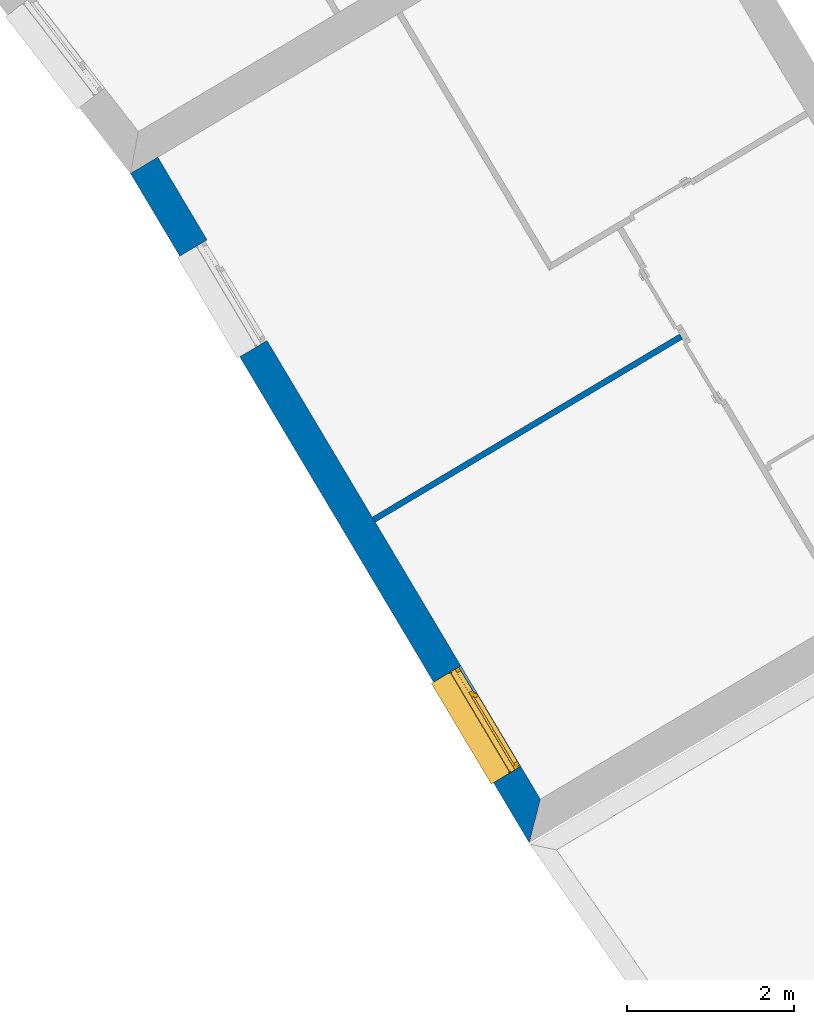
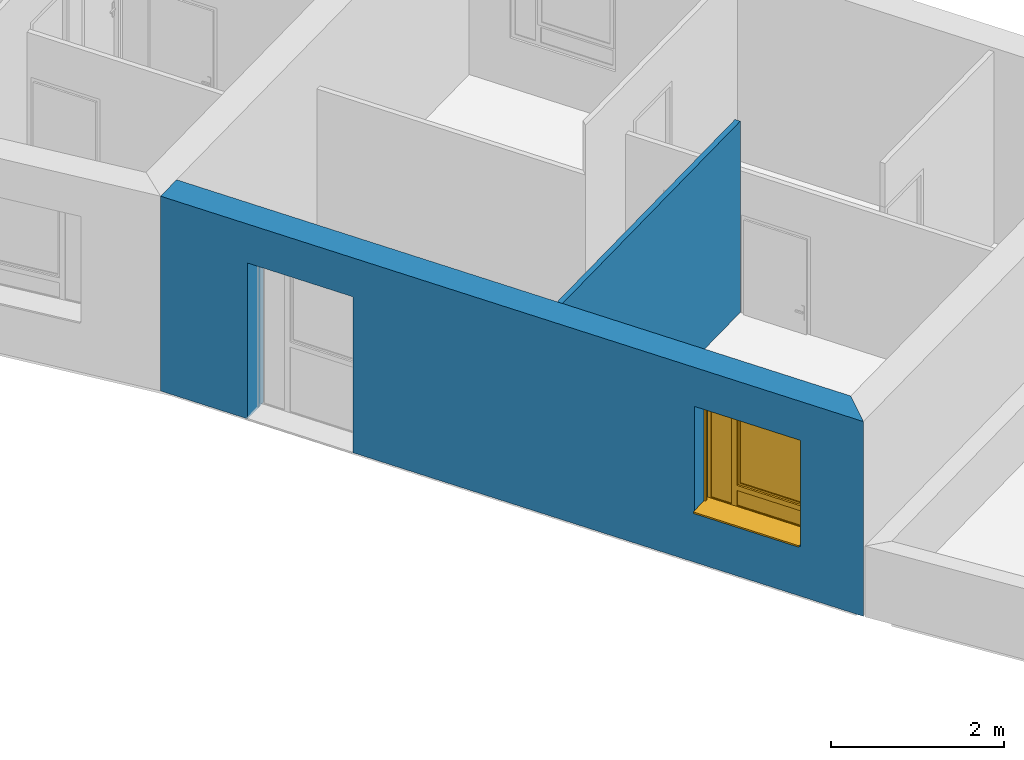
# One storey, part 39 of 121: 2 walls, 1 window, 2 openings.
"""IFC2X3 building model written with IfcOpenShell, lengths in metres."""

from ifc_helpers import new_model, entity, si_unit, converted_unit, derived_unit, money_unit, direction, frame, origin_with_axes, place, context, subcontext, project, spatial, polyline, outline, extrude, open_shell, faceted_brep, surface_model, source, transform, mapped, material, layer, layer_set, layer_usage, type_object, element, fill, save


model = new_model("IFC2X3")

# Units and contexts
model_context = context("Model", 3, precision=1e-05, world=origin_with_axes(), true_north=direction((0.0, 1.0)))
body_context = subcontext(model_context, "Body", "Model", "MODEL_VIEW")
ifc_project = project(units=[si_unit("LENGTHUNIT", "METRE"), si_unit("AREAUNIT", "SQUARE_METRE"), si_unit("VOLUMEUNIT", "CUBIC_METRE"), converted_unit("PLANEANGLEUNIT", "DEGREE", entity("IfcPlaneAngleMeasure", 0.0174532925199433), si_unit("PLANEANGLEUNIT", "RADIAN"), dimensions=[0, 0, 0, 0, 0, 0, 0]), money_unit("CHF"), converted_unit("TIMEUNIT", "Year", entity("IfcTimeMeasure", 31557600.0), si_unit("TIMEUNIT", "SECOND"), dimensions=[0, 0, 1, 0, 0, 0, 0]), si_unit("MASSUNIT", "GRAM", prefix="KILO"), si_unit("THERMODYNAMICTEMPERATUREUNIT", "DEGREE_CELSIUS"), si_unit("LUMINOUSINTENSITYUNIT", "LUMEN"), si_unit("ENERGYUNIT", "JOULE", prefix="MEGA"), derived_unit("THERMALCONDUCTANCEUNIT", [(si_unit("POWERUNIT", "WATT"), 1), (si_unit("LENGTHUNIT", "METRE"), -1), (si_unit("THERMODYNAMICTEMPERATUREUNIT", "KELVIN"), -1)]), derived_unit("SPECIFICHEATCAPACITYUNIT", [(si_unit("ENERGYUNIT", "JOULE"), 1), (si_unit("MASSUNIT", "GRAM", prefix="KILO"), -1), (si_unit("THERMODYNAMICTEMPERATUREUNIT", "KELVIN"), -1)]), derived_unit("MASSDENSITYUNIT", [(si_unit("MASSUNIT", "GRAM", prefix="KILO"), 1), (si_unit("VOLUMEUNIT", "CUBIC_METRE"), -1)])], contexts=[model_context])

# Site, building, storey
site_placement = place(None, origin_with_axes())
site = spatial("IfcSite", under=ifc_project, at=site_placement, Name="Site", CompositionType="ELEMENT")
building_placement = place(site_placement, origin_with_axes())
building = spatial("IfcBuilding", under=site, at=building_placement, Name="Bâtiment", CompositionType="ELEMENT")
storey_placement = place(building_placement, frame((0.0, 0.0, 2.75), z_axis=(0.0, 0.0, 1.0), x_axis=(1.0, 0.0, 0.0)))
storey = spatial("IfcBuildingStorey", under=building, at=storey_placement, Name="Etage 1", CompositionType="ELEMENT", Elevation=2.75)

# Wall
ifc_material_1 = material(Name="Hachure solide 268963992")
ifc_layer_1 = layer(ifc_material_1, 0.07, ventilated="UNKNOWN")
ifc_layer_set_1 = layer_set([ifc_layer_1], Name="Cloison 70 0826278243")
ifc_layer_usage_1 = layer_usage(ifc_layer_set_1, "AXIS2", "POSITIVE", 0.0)
wall_type_1 = type_object("IfcWallType", Name="Cloison 70 0826278243 70", PredefinedType="NOTDEFINED")
wall_1_placement = place(storey_placement, frame((9541.045626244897, -1051.56847190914, 57.7), z_axis=(0.0, 0.0, 1.0), x_axis=(0.8590867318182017, 0.5118300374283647, 0.0)))
element("IfcWallStandardCase", 1, at=wall_1_placement, inside=storey, type_object=wall_type_1, material=ifc_layer_usage_1, Name="Mur-150", context=body_context, shape_type="SweptSolid", body=[
    extrude(outline(polyline([(0.3799999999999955, 0.0), (4.655501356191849, 0.0), (4.655501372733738, 0.07000000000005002), (0.3800000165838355, 0.07000000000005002), (0.3799999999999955, 0.0)])), origin_with_axes(), (0.0, 0.0, 1.0), 2.7),
])

# Wall, openings, window
ifc_material_2 = material(Name="Parpaing 312445824")
ifc_layer_2 = layer(ifc_material_2, 0.22, ventilated="UNKNOWN")
ifc_material_3 = material(Name="Isolant styromousse 301821074")
ifc_layer_3 = layer(ifc_material_3, 0.16, ventilated="UNKNOWN")
ifc_layer_set_2 = layer_set([ifc_layer_2, ifc_layer_3], Name="isol int 22+16 0836643197")
ifc_layer_usage_2 = layer_usage(ifc_layer_set_2, "AXIS2", "POSITIVE", 0.0)
wall_type_2 = type_object("IfcWallType", Name="isol int 22+16 0836643197 380", PredefinedType="NOTDEFINED")
wall_2_placement = place(storey_placement, frame((9538.446702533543, -1047.206277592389, 57.7), z_axis=(0.0, 0.0, 1.0), x_axis=(0.511829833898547, -0.8590868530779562, 0.0)))
wall_2 = element("IfcWallStandardCase", 2, at=wall_2_placement, inside=storey, type_object=wall_type_2, material=ifc_layer_usage_2, Name="Mur-113", context=body_context, shape_type="SweptSolid", body=[
    extrude(outline(polyline([(0.0, 0.0), (9.311906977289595, 0.0), (8.931906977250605, 0.3799999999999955), (0.0, 0.3799999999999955), (0.0, 0.0)])), origin_with_axes(), (0.0, 0.0, 1.0), 2.75),
])
opening_1_placement = place(wall_2_placement, frame((1.851368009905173, 0.0, 0.0), z_axis=(0.0, 0.0, 1.0), x_axis=(1.0, 0.0, 0.0)))
element("IfcOpeningElement", 3, at=opening_1_placement, cuts=wall_2, Name="Fen-045", context=body_context, shape_type="Brep", body=[
    faceted_brep([(-0.6999999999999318, 0.4800000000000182, 2.200000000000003), (0.6999999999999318, 0.4800000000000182, 2.200000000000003), (0.7000000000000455, 4.475503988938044, 2.200000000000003), (-0.7000000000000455, 4.475503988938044, 2.200000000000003), (-0.6999999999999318, 0.4800000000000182, 2.399999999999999), (0.6999999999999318, 0.4800000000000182, 2.399999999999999), (0.6999999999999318, 0.3000000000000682, 2.200000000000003), (0.7000000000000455, 0.3000000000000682, 0.0), (0.7000000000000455, 4.475503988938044, 0.0), (-0.7000000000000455, 4.475503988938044, 0.0), (-0.6999999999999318, 0.3000000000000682, 2.200000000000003), (-0.6999999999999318, 0.3000000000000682, 0.0), (-0.7000000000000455, 0.2199999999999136, 2.200000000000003), (-0.7000000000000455, 0.2199999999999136, 2.399999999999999), (0.7000000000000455, 0.2199999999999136, 2.399999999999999), (0.7000000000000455, 0.2199999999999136, 2.200000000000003), (0.6999999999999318, -4.095503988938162, 2.200000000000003), (0.6999999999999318, -4.095503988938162, 0.0), (-0.6999999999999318, -4.095503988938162, 0.0), (-0.6999999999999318, -4.095503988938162, 2.200000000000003)], [[[0, 1, 2, 3]], [[1, 0, 4, 5]], [[1, 6, 7, 8, 2]], [[2, 8, 9, 3]], [[10, 0, 3, 9, 11]], [[0, 10, 12, 13, 4]], [[4, 13, 14, 5]], [[6, 1, 5, 14, 15]], [[6, 15, 16, 17, 7]], [[7, 11, 9, 8]], [[12, 10, 11, 18, 19]], [[12, 15, 14, 13]], [[15, 12, 19, 16]], [[19, 18, 17, 16]], [[11, 7, 17, 18]]]),
])
opening_2_placement = place(wall_2_placement, frame((7.775827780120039, 0.0, 0.7000000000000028), z_axis=(0.0, 0.0, 1.0), x_axis=(1.0, 0.0, 0.0)))
opening_2 = element("IfcOpeningElement", 4, at=opening_2_placement, cuts=wall_2, Name="Fen-045", context=body_context, shape_type="Brep", body=[
    faceted_brep([(-0.7000000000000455, 0.4799999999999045, 1.5), (0.7000000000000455, 0.4799999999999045, 1.5), (0.7000000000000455, 4.475503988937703, 1.5), (-0.7000000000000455, 4.475503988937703, 1.5), (-0.7000000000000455, 0.4799999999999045, 1.700000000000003), (0.7000000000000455, 0.4799999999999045, 1.700000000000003), (0.7000000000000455, 0.2999999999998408, 1.5), (0.7000000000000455, 0.2999999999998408, 0.0), (0.7000000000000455, 4.475503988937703, 0.0), (-0.7000000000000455, 4.475503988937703, 0.0), (-0.7000000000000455, 0.2999999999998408, 1.5), (-0.6999999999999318, 0.2999999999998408, 0.0), (-0.6999999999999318, 0.2199999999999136, 1.5), (-0.6999999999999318, 0.2199999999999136, 1.700000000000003), (0.7000000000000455, 0.2199999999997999, 1.700000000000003), (0.7000000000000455, 0.2199999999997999, 1.5), (0.7000000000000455, -4.095503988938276, 1.5), (0.7000000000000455, -4.095503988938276, 0.0), (-0.7000000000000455, -4.095503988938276, 0.0), (-0.7000000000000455, -4.095503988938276, 1.5)], [[[0, 1, 2, 3]], [[1, 0, 4, 5]], [[1, 6, 7, 8, 2]], [[2, 8, 9, 3]], [[10, 0, 3, 9, 11]], [[0, 10, 12, 13, 4]], [[4, 13, 14, 5]], [[6, 1, 5, 14, 15]], [[6, 15, 16, 17, 7]], [[7, 11, 9, 8]], [[12, 10, 11, 18, 19]], [[12, 15, 14, 13]], [[15, 12, 19, 16]], [[19, 18, 17, 16]], [[11, 7, 17, 18]]]),
])
window_style = type_object("IfcWindowStyle", Name="Fenêtre variable 27", ConstructionType="NOTDEFINED", OperationType="TRIPLE_PANEL_LEFT", ParameterTakesPrecedence=False, Sizeable=False)
shared_shape = source(origin_with_axes(), body_context, "Body", "SurfaceModel", [
    surface_model("IfcShellBasedSurfaceModel", [(0.7, -0.05100000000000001, 0.05), (-0.7, -0.05100000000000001, 0.05000000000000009), (-0.7, -0.05100000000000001, 0.04000000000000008), (0.7, -0.05100000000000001, 0.04), (-0.7, -0.3799999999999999, 0.02900000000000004), (0.7, -0.3799999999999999, 0.02899999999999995), (-0.7, -0.3799999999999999, 0.00900000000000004), (0.7, -0.3799999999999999, 0.008999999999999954), (-0.7, -0.3699999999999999, 0.01900000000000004), (0.7, -0.3699999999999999, 0.01899999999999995)], [open_shell([[[0, 1, 2, 3]], [[3, 2, 4, 5]], [[5, 4, 6, 7]], [[7, 6, 8, 9]]])]),
    faceted_brep([(0.7, -0.13, 1.7), (0.7, 0.13, 1.7), (0.697, 0.13, 1.7), (0.697, -0.13, 1.7), (0.7, -0.13, 1.5), (0.7, 0.13, 1.5), (0.697, 0.13, 1.5), (0.697, -0.13, 1.5)], [[[0, 1, 2, 3]], [[0, 4, 5, 1]], [[1, 5, 6, 2]], [[3, 2, 6, 7]], [[4, 0, 3, 7]], [[5, 4, 7, 6]]]),
    faceted_brep([(-0.6970000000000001, -0.1299999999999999, 1.7), (-0.6970000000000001, 0.1300000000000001, 1.7), (-0.7000000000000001, 0.1300000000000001, 1.7), (-0.7000000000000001, -0.1299999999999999, 1.7), (-0.6970000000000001, -0.1299999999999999, 1.5), (-0.6970000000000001, 0.1300000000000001, 1.5), (-0.7000000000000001, 0.1300000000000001, 1.5), (-0.7000000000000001, -0.1299999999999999, 1.5)], [[[0, 1, 2, 3]], [[0, 4, 5, 1]], [[1, 5, 6, 2]], [[3, 2, 6, 7]], [[4, 0, 3, 7]], [[5, 4, 7, 6]]]),
    faceted_brep([(0.697, -0.13, 1.5), (0.697, -0.13, 1.7), (-0.697, -0.1299999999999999, 1.7), (-0.697, -0.1299999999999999, 1.5), (0.697, -0.127, 1.5), (0.697, -0.127, 1.697), (0.697, 0.127, 1.697), (0.697, 0.127, 1.503), (0.697, -0.108, 1.503), (0.697, -0.108, 1.5), (0.697, 0.13, 1.5), (0.697, 0.13, 1.7), (-0.697, 0.1300000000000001, 1.7), (-0.697, 0.1300000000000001, 1.5), (-0.697, -0.1079999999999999, 1.5), (-0.697, -0.1079999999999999, 1.503), (-0.697, 0.1270000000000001, 1.503), (-0.697, 0.1270000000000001, 1.697), (-0.697, -0.1269999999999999, 1.697), (-0.697, -0.1269999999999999, 1.5)], [[[0, 1, 2, 3]], [[0, 4, 5, 6, 7, 8, 9, 10, 11, 1]], [[1, 11, 12, 2]], [[3, 2, 12, 13, 14, 15, 16, 17, 18, 19]], [[4, 0, 3, 19]], [[5, 4, 19, 18]], [[6, 5, 18, 17]], [[7, 6, 17, 16]], [[8, 7, 16, 15]], [[9, 8, 15, 14]], [[10, 9, 14, 13]], [[11, 10, 13, 12]]]),
    faceted_brep([(0.694, -0.08075423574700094, 1.585760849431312), (0.694, -0.07705479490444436, 1.571954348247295), (0.694, -0.07101408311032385, 1.559), (0.694, -0.06281564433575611, 1.547291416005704), (0.694, -0.05270858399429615, 1.537184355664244), (0.694, -0.04099999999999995, 1.528985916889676), (0.694, -0.02804565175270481, 1.522945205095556), (0.694, -0.01423915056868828, 1.519245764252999), (0.694, 0.0, 1.518), (0.694, 0.01423915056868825, 1.519245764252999), (0.694, 0.02804565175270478, 1.522945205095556), (0.694, 0.04099999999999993, 1.528985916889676), (0.694, 0.05270858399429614, 1.537184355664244), (0.694, 0.06281564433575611, 1.547291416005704), (0.694, 0.07101408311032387, 1.559), (0.694, 0.07705479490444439, 1.571954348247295), (0.694, 0.08075423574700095, 1.585760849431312), (0.694, 0.0819999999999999, 1.6), (0.694, 0.08075423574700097, 1.614239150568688), (0.694, 0.0770547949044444, 1.628045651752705), (0.694, 0.07101408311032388, 1.641), (0.694, 0.06281564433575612, 1.652708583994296), (0.694, 0.05270858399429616, 1.662815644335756), (0.694, 0.04099999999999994, 1.671014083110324), (0.694, 0.02804565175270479, 1.677054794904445), (0.694, 0.01423915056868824, 1.680754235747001), (0.694, 0.0, 1.682), (0.694, -0.01423915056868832, 1.680754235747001), (0.694, -0.02804565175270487, 1.677054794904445), (0.694, -0.04100000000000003, 1.671014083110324), (0.694, -0.05270858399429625, 1.662815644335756), (0.694, -0.06281564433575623, 1.652708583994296), (0.694, -0.07101408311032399, 1.641), (0.694, -0.07705479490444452, 1.628045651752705), (0.694, -0.0807542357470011, 1.614239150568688), (0.694, -0.08200000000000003, 1.6), (-0.694, -0.08075423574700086, 1.585760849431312), (-0.694, -0.07705479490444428, 1.571954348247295), (-0.694, -0.07101408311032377, 1.559), (-0.694, -0.06281564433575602, 1.547291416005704), (-0.694, -0.05270858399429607, 1.537184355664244), (-0.694, -0.04099999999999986, 1.528985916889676), (-0.694, -0.02804565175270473, 1.522945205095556), (-0.694, -0.0142391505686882, 1.519245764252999), (-0.694, 0.0, 1.518), (-0.694, 0.01423915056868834, 1.519245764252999), (-0.694, 0.02804565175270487, 1.522945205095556), (-0.694, 0.04100000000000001, 1.528985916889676), (-0.694, 0.05270858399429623, 1.537184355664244), (-0.694, 0.06281564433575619, 1.547291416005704), (-0.694, 0.07101408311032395, 1.559), (-0.694, 0.07705479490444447, 1.571954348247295), (-0.694, 0.08075423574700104, 1.585760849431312), (-0.694, 0.08199999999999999, 1.6), (-0.694, 0.08075423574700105, 1.614239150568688), (-0.694, 0.07705479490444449, 1.628045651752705), (-0.694, 0.07101408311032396, 1.641), (-0.694, 0.0628156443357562, 1.652708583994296), (-0.694, 0.05270858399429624, 1.662815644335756), (-0.694, 0.04100000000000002, 1.671014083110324), (-0.694, 0.02804565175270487, 1.677054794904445), (-0.694, 0.01423915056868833, 1.680754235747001), (-0.694, 0.0, 1.682), (-0.694, -0.01423915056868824, 1.680754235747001), (-0.694, -0.02804565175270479, 1.677054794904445), (-0.694, -0.04099999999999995, 1.671014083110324), (-0.694, -0.05270858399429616, 1.662815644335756), (-0.694, -0.06281564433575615, 1.652708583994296), (-0.694, -0.07101408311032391, 1.641), (-0.694, -0.07705479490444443, 1.628045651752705), (-0.694, -0.08075423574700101, 1.614239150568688), (-0.694, -0.08199999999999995, 1.6)], [[[0, 1, 2, 3, 4, 5, 6, 7, 8, 9, 10, 11, 12, 13, 14, 15, 16, 17, 18, 19, 20, 21, 22, 23, 24, 25, 26, 27, 28, 29, 30, 31, 32, 33, 34, 35]], [[1, 0, 36, 37]], [[2, 1, 37, 38]], [[3, 2, 38, 39]], [[4, 3, 39, 40]], [[5, 4, 40, 41]], [[6, 5, 41, 42]], [[7, 6, 42, 43]], [[8, 7, 43, 44]], [[9, 8, 44, 45]], [[10, 9, 45, 46]], [[11, 10, 46, 47]], [[12, 11, 47, 48]], [[13, 12, 48, 49]], [[14, 13, 49, 50]], [[15, 14, 50, 51]], [[16, 15, 51, 52]], [[17, 16, 52, 53]], [[18, 17, 53, 54]], [[19, 18, 54, 55]], [[20, 19, 55, 56]], [[21, 20, 56, 57]], [[22, 21, 57, 58]], [[23, 22, 58, 59]], [[24, 23, 59, 60]], [[25, 24, 60, 61]], [[26, 25, 61, 62]], [[27, 26, 62, 63]], [[28, 27, 63, 64]], [[29, 28, 64, 65]], [[30, 29, 65, 66]], [[31, 30, 66, 67]], [[32, 31, 67, 68]], [[33, 32, 68, 69]], [[34, 33, 69, 70]], [[35, 34, 70, 71]], [[0, 35, 71, 36]], [[36, 71, 70, 69, 68, 67, 66, 65, 64, 63, 62, 61, 60, 59, 58, 57, 56, 55, 54, 53, 52, 51, 50, 49, 48, 47, 46, 45, 44, 43, 42, 41, 40, 39, 38, 37]]]),
    faceted_brep([(-0.7, -0.105, 0.03), (-0.7, -0.13, 0.03), (-0.7, -0.1299999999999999, 1.5), (-0.7, -0.1049999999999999, 1.5), (-0.6749999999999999, -0.105, 0.03), (-0.6749999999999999, -0.108, 0.03), (-0.697, -0.108, 0.03), (-0.697, -0.127, 0.03), (-0.6749999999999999, -0.127, 0.03), (-0.6749999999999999, -0.13, 0.03), (-0.6749999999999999, -0.1299999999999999, 1.5), (-0.6749999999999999, -0.1269999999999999, 1.5), (-0.697, -0.1269999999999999, 1.5), (-0.697, -0.1079999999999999, 1.5), (-0.6749999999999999, -0.1079999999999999, 1.5), (-0.6749999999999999, -0.1049999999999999, 1.5)], [[[0, 1, 2, 3]], [[0, 4, 5, 6, 7, 8, 9, 1]], [[1, 9, 10, 2]], [[3, 2, 10, 11, 12, 13, 14, 15]], [[4, 0, 3, 15]], [[5, 4, 15, 14]], [[6, 5, 14, 13]], [[7, 6, 13, 12]], [[8, 7, 12, 11]], [[9, 8, 11, 10]]]),
    faceted_brep([(0.7, -0.105, 0.03), (0.7, -0.1049999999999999, 1.5), (0.7, -0.1299999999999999, 1.5), (0.7, -0.13, 0.03), (0.6749999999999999, -0.105, 0.03), (0.6749999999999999, -0.1049999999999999, 1.5), (0.6749999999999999, -0.1079999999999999, 1.5), (0.697, -0.1079999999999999, 1.5), (0.697, -0.1269999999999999, 1.5), (0.6749999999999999, -0.1269999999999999, 1.5), (0.6749999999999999, -0.1299999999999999, 1.5), (0.6749999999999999, -0.13, 0.03), (0.6749999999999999, -0.127, 0.03), (0.697, -0.127, 0.03), (0.697, -0.108, 0.03), (0.6749999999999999, -0.108, 0.03)], [[[0, 1, 2, 3]], [[4, 5, 1, 0]], [[1, 5, 6, 7, 8, 9, 10, 2]], [[3, 2, 10, 11]], [[0, 3, 11, 12, 13, 14, 15, 4]], [[15, 6, 5, 4]], [[14, 7, 6, 15]], [[13, 8, 7, 14]], [[12, 9, 8, 13]], [[11, 10, 9, 12]]]),
    surface_model("IfcShellBasedSurfaceModel", [(0.697, -0.115, 1.6), (-0.697, -0.1149999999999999, 1.6), (-0.697, -0.12, 1.6), (0.697, -0.12, 1.6), (0.697, -0.115, 1.6), (0.697, -0.12, 1.6), (-0.697, -0.1199999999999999, 1.6), (-0.697, -0.1149999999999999, 1.6)], [open_shell([[[0, 1, 2, 3]], [[4, 5, 6, 7]]])]),
    faceted_brep([(0.697, -0.115, 1.6), (0.697, -0.1166666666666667, 1.583333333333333), (-0.697, -0.1166666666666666, 1.583333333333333), (-0.697, -0.1149999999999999, 1.6), (0.697, -0.12, 1.6), (0.697, -0.1216666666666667, 1.583333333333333), (0.697, -0.1216666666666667, 1.566666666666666), (0.697, -0.12, 1.55), (0.697, -0.115, 1.55), (0.697, -0.1166666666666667, 1.566666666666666), (-0.697, -0.1166666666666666, 1.566666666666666), (-0.697, -0.1149999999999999, 1.55), (-0.697, -0.1199999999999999, 1.55), (-0.697, -0.1216666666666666, 1.566666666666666), (-0.697, -0.1216666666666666, 1.583333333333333), (-0.697, -0.1199999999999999, 1.6)], [[[0, 1, 2, 3]], [[0, 4, 5, 6, 7, 8, 9, 1]], [[1, 9, 10, 2]], [[3, 2, 10, 11, 12, 13, 14, 15]], [[4, 0, 3, 15]], [[5, 4, 15, 14]], [[6, 5, 14, 13]], [[7, 6, 13, 12]], [[8, 7, 12, 11]], [[9, 8, 11, 10]]]),
    faceted_brep([(0.697, -0.115, 1.55), (0.697, -0.1166666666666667, 1.533333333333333), (-0.697, -0.1166666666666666, 1.533333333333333), (-0.697, -0.1149999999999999, 1.55), (0.697, -0.12, 1.55), (0.697, -0.1216666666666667, 1.533333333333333), (0.697, -0.1216666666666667, 1.516666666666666), (0.697, -0.12, 1.5), (0.697, -0.115, 1.5), (0.697, -0.1166666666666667, 1.516666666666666), (-0.697, -0.1166666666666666, 1.516666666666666), (-0.697, -0.1149999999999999, 1.5), (-0.697, -0.1199999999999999, 1.5), (-0.697, -0.1216666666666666, 1.516666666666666), (-0.697, -0.1216666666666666, 1.533333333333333), (-0.697, -0.1199999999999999, 1.55)], [[[0, 1, 2, 3]], [[0, 4, 5, 6, 7, 8, 9, 1]], [[1, 9, 10, 2]], [[3, 2, 10, 11, 12, 13, 14, 15]], [[4, 0, 3, 15]], [[5, 4, 15, 14]], [[6, 5, 14, 13]], [[7, 6, 13, 12]], [[8, 7, 12, 11]], [[9, 8, 11, 10]]]),
    faceted_brep([(0.6749999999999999, 0.0, 1.45), (0.6749999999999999, -0.02500000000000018, 1.45), (0.6499999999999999, -0.02500000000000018, 1.45), (0.6499999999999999, -0.05000000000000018, 1.45), (0.7, -0.05000000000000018, 1.45), (0.7, 0.0, 1.45), (0.6749999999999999, 0.0, 0.3099999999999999), (0.6749999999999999, -0.02500000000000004, 0.3099999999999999), (0.6499999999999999, -0.02500000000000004, 0.335), (0.6499999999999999, -0.02500000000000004, 0.3099999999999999), (0.6499999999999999, -0.05000000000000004, 0.335), (0.6499999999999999, -0.05000000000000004, 0.265), (0.6499999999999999, -0.05000000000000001, 0.05000000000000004), (0.7, -0.05000000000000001, 0.05000000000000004), (0.7, 0.0, 0.05000000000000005), (0.6499999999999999, 0.0, 0.05000000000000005), (0.6499999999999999, 0.0, 0.265), (0.6499999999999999, 0.0, 0.3099999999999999)], [[[0, 1, 2, 3, 4, 5]], [[1, 0, 6, 7]], [[8, 2, 1, 7, 9]], [[2, 8, 10, 3]], [[10, 11, 12, 13, 4, 3]], [[5, 4, 13, 14]], [[6, 0, 5, 14, 15, 16, 17]], [[6, 17, 9, 7]], [[9, 17, 16, 11, 10, 8]], [[15, 12, 11, 16]], [[14, 13, 12, 15]]]),
    faceted_brep([(-0.3068894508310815, -0.02500000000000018, 1.45), (-0.3318894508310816, -0.02500000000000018, 1.45), (-0.3318894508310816, 0.0, 1.45), (-0.3768894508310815, 0.0, 1.45), (-0.3768894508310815, -0.05000000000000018, 1.45), (-0.3068894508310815, -0.05000000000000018, 1.45), (-0.3068894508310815, -0.02500000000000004, 0.335), (-0.3068894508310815, -0.02500000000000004, 0.3099999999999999), (-0.3318894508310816, -0.02500000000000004, 0.3099999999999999), (-0.3318894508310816, 0.0, 0.3099999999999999), (-0.3068894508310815, 0.0, 0.3099999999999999), (-0.3068894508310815, 0.0, 0.265), (-0.3068894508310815, 0.0, 0.05000000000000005), (-0.3768894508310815, 0.0, 0.05000000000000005), (-0.3768894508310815, -0.05000000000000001, 0.05000000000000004), (-0.3068894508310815, -0.05000000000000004, 0.265), (-0.3068894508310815, -0.05000000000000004, 0.335), (-0.3068894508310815, -0.05000000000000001, 0.05000000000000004)], [[[0, 1, 2, 3, 4, 5]], [[1, 0, 6, 7, 8]], [[9, 2, 1, 8]], [[9, 10, 11, 12, 13, 3, 2]], [[13, 14, 4, 3]], [[15, 16, 5, 4, 14, 17]], [[6, 0, 5, 16]], [[7, 6, 16, 15, 11, 10]], [[10, 9, 8, 7]], [[11, 15, 17, 12]], [[12, 17, 14, 13]]]),
    faceted_brep([(0.6499999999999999, -0.02500000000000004, 0.335), (-0.3068894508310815, -0.02500000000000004, 0.335), (-0.3068894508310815, -0.05000000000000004, 0.335), (0.6499999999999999, -0.05000000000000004, 0.335), (-0.3068894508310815, -0.02500000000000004, 0.3099999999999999), (0.6499999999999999, -0.02500000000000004, 0.3099999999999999), (-0.3068894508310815, 0.0, 0.3099999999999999), (-0.3068894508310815, 0.0, 0.265), (-0.3068894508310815, -0.05000000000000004, 0.265), (0.6499999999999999, -0.05000000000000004, 0.265), (0.6499999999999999, 0.0, 0.265), (0.6499999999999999, 0.0, 0.3099999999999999)], [[[0, 1, 2, 3]], [[4, 1, 0, 5]], [[4, 6, 7, 8, 2, 1]], [[2, 8, 9, 3]], [[5, 0, 3, 9, 10, 11]], [[11, 6, 4, 5]], [[6, 11, 10, 7]], [[10, 9, 8, 7]]]),
    faceted_brep([(0.6749999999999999, 0.0, 1.45), (0.6749999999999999, 0.0, 1.475), (-0.3318894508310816, 0.0, 1.475), (-0.3318894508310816, 0.0, 1.45), (-0.3768894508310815, 0.0, 1.45), (-0.6499999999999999, 0.0, 1.45), (-0.7, 0.0, 1.45), (-0.7, 0.0, 1.5), (0.7, 0.0, 1.5), (0.7, 0.0, 1.45), (0.6749999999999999, -0.02500000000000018, 1.45), (0.6749999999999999, -0.02500000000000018, 1.475), (-0.3318894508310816, -0.02500000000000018, 1.475), (-0.3318894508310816, -0.02500000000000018, 1.45), (-0.3068894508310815, -0.02500000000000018, 1.45), (-0.3068894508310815, -0.05000000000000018, 1.45), (-0.3768894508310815, -0.05000000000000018, 1.45), (-0.6499999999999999, -0.05000000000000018, 1.45), (-0.7, -0.05000000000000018, 1.45), (-0.7, -0.05000000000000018, 1.5), (0.7, -0.05000000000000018, 1.5), (0.7, -0.05000000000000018, 1.45), (0.6499999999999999, -0.05000000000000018, 1.45), (0.6499999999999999, -0.02500000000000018, 1.45)], [[[0, 1, 2, 3, 4, 5, 6, 7, 8, 9]], [[1, 0, 10, 11]], [[2, 1, 11, 12]], [[3, 2, 12, 13]], [[13, 14, 15, 16, 4, 3]], [[4, 16, 17, 5]], [[5, 17, 18, 6]], [[6, 18, 19, 7]], [[7, 19, 20, 8]], [[8, 20, 21, 9]], [[10, 0, 9, 21, 22, 23]], [[14, 13, 12, 11, 10, 23]], [[14, 23, 22, 15]], [[16, 15, 22, 21, 20, 19, 18, 17]]]),
    faceted_brep([(-0.6499999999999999, -0.05000000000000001, 0.05), (-0.7, -0.05000000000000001, 0.05), (-0.7, 0.0, 0.05000000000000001), (-0.6499999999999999, 0.0, 0.05000000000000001), (-0.6499999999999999, -0.05000000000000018, 1.45), (-0.7, -0.05000000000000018, 1.45), (-0.7, 0.0, 1.45), (-0.6499999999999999, 0.0, 1.45)], [[[0, 1, 2, 3]], [[0, 4, 5, 1]], [[1, 5, 6, 2]], [[3, 2, 6, 7]], [[4, 0, 3, 7]], [[5, 4, 7, 6]]]),
    faceted_brep([(0.6499999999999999, -0.05000000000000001, 0.05), (0.7, -0.05000000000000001, 0.05), (0.7, 0.0, 0.05000000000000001), (0.6499999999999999, 0.0, 0.05000000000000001), (-0.3068894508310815, -0.05000000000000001, 0.05), (-0.3768894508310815, -0.05000000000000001, 0.05), (-0.6499999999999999, -0.05000000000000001, 0.05), (-0.7, -0.05000000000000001, 0.05), (-0.7, -0.05, 0.0), (0.7, -0.05, 0.0), (0.7, 0.0, 0.0), (-0.7, 0.0, 0.0), (-0.7, 0.0, 0.05000000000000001), (-0.6499999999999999, 0.0, 0.05000000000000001), (-0.3768894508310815, 0.0, 0.05000000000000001), (-0.3068894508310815, 0.0, 0.05000000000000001)], [[[0, 1, 2, 3]], [[0, 4, 5, 6, 7, 8, 9, 1]], [[1, 9, 10, 2]], [[3, 2, 10, 11, 12, 13, 14, 15]], [[4, 0, 3, 15]], [[5, 4, 15, 14]], [[6, 5, 14, 13]], [[7, 6, 13, 12]], [[8, 7, 12, 11]], [[9, 8, 11, 10]]]),
    faceted_brep([(0.625, -0.02500000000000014, 1.425), (0.6749999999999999, -0.02500000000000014, 1.425), (0.6749999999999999, 0.02499999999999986, 1.425), (0.625, 0.02499999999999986, 1.425), (0.625, -0.02500000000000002, 0.3599999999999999), (0.6749999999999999, -0.02500000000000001, 0.3599999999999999), (0.6749999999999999, 0.02499999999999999, 0.3599999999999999), (0.625, 0.02499999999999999, 0.3599999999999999)], [[[0, 1, 2, 3]], [[0, 4, 5, 1]], [[1, 5, 6, 2]], [[3, 2, 6, 7]], [[4, 0, 3, 7]], [[5, 4, 7, 6]]]),
    faceted_brep([(-0.2818894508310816, -0.02500000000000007, 0.3599999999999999), (-0.3318894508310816, -0.02500000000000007, 0.3599999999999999), (-0.3318894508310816, 0.02499999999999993, 0.3599999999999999), (-0.2818894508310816, 0.02499999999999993, 0.3599999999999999), (-0.2818894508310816, -0.0250000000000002, 1.425), (-0.3318894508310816, -0.0250000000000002, 1.425), (-0.3318894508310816, 0.0249999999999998, 1.425), (-0.2818894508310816, 0.0249999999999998, 1.425)], [[[0, 1, 2, 3]], [[0, 4, 5, 1]], [[1, 5, 6, 2]], [[3, 2, 6, 7]], [[4, 0, 3, 7]], [[5, 4, 7, 6]]]),
    faceted_brep([(-0.3318894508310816, -0.02500000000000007, 0.3099999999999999), (-0.3318894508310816, -0.02500000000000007, 0.3599999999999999), (-0.3318894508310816, 0.02499999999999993, 0.3599999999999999), (-0.3318894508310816, 0.02499999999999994, 0.3099999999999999), (0.6749999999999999, -0.025, 0.3099999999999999), (0.6749999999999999, -0.02500000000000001, 0.3599999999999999), (0.625, -0.02500000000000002, 0.3599999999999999), (-0.2818894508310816, -0.02500000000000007, 0.3599999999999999), (-0.2818894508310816, 0.02499999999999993, 0.3599999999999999), (0.625, 0.02499999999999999, 0.3599999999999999), (0.6749999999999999, 0.02499999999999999, 0.3599999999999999), (0.6749999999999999, 0.02499999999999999, 0.3099999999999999)], [[[0, 1, 2, 3]], [[0, 4, 5, 6, 7, 1]], [[1, 7, 8, 2]], [[3, 2, 8, 9, 10, 11]], [[4, 0, 3, 11]], [[5, 4, 11, 10]], [[6, 5, 10, 9]], [[7, 6, 9, 8]]]),
    faceted_brep([(0.6749999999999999, -0.02500000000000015, 1.475), (0.6749999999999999, -0.02500000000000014, 1.425), (0.6749999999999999, 0.02499999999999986, 1.425), (0.6749999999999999, 0.02499999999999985, 1.475), (-0.3318894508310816, -0.02500000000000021, 1.475), (-0.3318894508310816, -0.0250000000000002, 1.425), (-0.2818894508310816, -0.0250000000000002, 1.425), (0.625, -0.02500000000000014, 1.425), (0.625, 0.02499999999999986, 1.425), (-0.2818894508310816, 0.0249999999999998, 1.425), (-0.3318894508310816, 0.0249999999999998, 1.425), (-0.3318894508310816, 0.02499999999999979, 1.475)], [[[0, 1, 2, 3]], [[0, 4, 5, 6, 7, 1]], [[1, 7, 8, 2]], [[3, 2, 8, 9, 10, 11]], [[4, 0, 3, 11]], [[5, 4, 11, 10]], [[6, 5, 10, 9]], [[7, 6, 9, 8]]]),
    surface_model("IfcShellBasedSurfaceModel", [(0.625, -0.01000000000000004, 0.3599999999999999), (0.625, -0.01000000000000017, 1.425), (-0.2818894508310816, -0.01000000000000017, 1.425), (-0.2818894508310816, -0.01000000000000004, 0.3599999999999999)], [open_shell([[[0, 1, 2, 3]]])]),
    surface_model("IfcShellBasedSurfaceModel", [(0.625, 0.009999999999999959, 0.3599999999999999), (-0.2818894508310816, 0.009999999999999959, 0.3599999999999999), (-0.2818894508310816, 0.00999999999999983, 1.425), (0.625, 0.00999999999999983, 1.425)], [open_shell([[[0, 1, 2, 3]]])]),
    surface_model("IfcShellBasedSurfaceModel", [(-0.3768894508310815, -0.035, 0.05), (-0.3768894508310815, -0.03500000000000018, 1.45), (-0.65, -0.03500000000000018, 1.45), (-0.65, -0.035, 0.05)], [open_shell([[[0, 1, 2, 3]]])]),
    surface_model("IfcShellBasedSurfaceModel", [(-0.3768894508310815, -0.015, 0.05), (-0.65, -0.015, 0.05), (-0.65, -0.01500000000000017, 1.45), (-0.3768894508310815, -0.01500000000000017, 1.45)], [open_shell([[[0, 1, 2, 3]]])]),
    surface_model("IfcShellBasedSurfaceModel", [(0.6499999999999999, -0.035, 0.05), (0.6499999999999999, -0.03500000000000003, 0.265), (-0.3068894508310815, -0.03500000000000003, 0.265), (-0.3068894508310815, -0.035, 0.05)], [open_shell([[[0, 1, 2, 3]]])]),
    surface_model("IfcShellBasedSurfaceModel", [(0.6499999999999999, -0.015, 0.05), (-0.3068894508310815, -0.015, 0.05), (-0.3068894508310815, -0.01500000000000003, 0.265), (0.6499999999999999, -0.01500000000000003, 0.265)], [open_shell([[[0, 1, 2, 3]]])]),
])
window_placement = place(opening_2_placement, frame((-0.7000000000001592, 0.0, 0.0), z_axis=(0.0, 0.0, 1.0), x_axis=(1.0, 0.0, 0.0)))
window = element("IfcWindow", 5, at=window_placement, inside=storey, type_object=window_style, Name="Fen-045", OverallHeight=1.5, OverallWidth=1.4, context=body_context, shape_type="MappedRepresentation", body=[
    mapped(shared_shape, transform((0.6999999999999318, 0.3500000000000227, 0.0))),
])
fill(opening_2, window)

save(model, "model.ifc")
